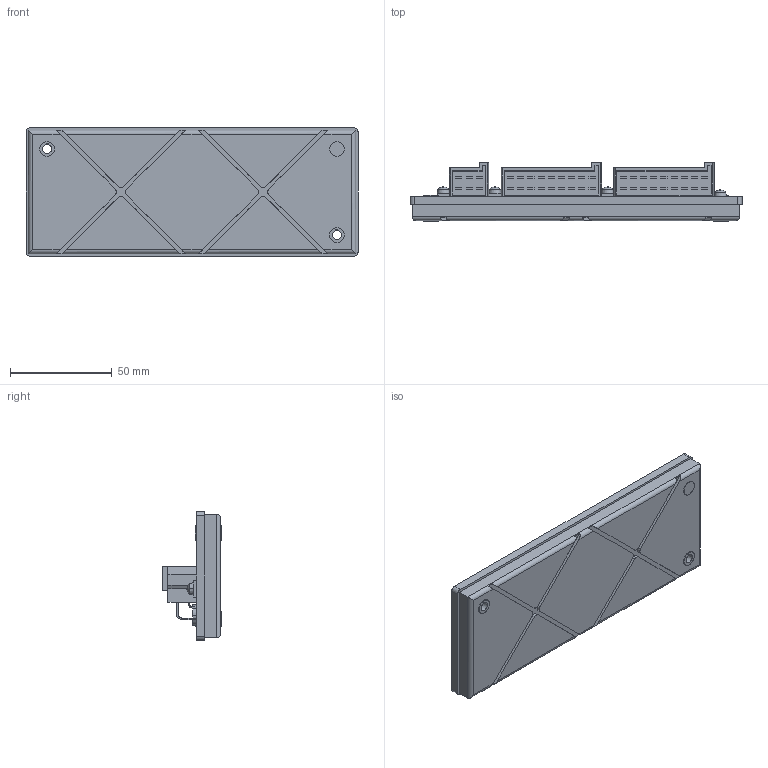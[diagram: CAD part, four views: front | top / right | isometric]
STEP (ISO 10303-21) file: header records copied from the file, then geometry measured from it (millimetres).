
FILE_DESCRIPTION( ( '' ), '1' );
FILE_NAME( '//expscmdclustefs.cadenas.external/client_exchange/iodir/jobs/output/wkb59772779_no0/STEP/CR2012_2_03.stp', '2013-06-25T11:54:05', ( '' ), ( '' ), ' ', ' ', ' ' );
FILE_SCHEMA( ( 'CONFIG_CONTROL_DESIGN' ) );
Length unit declared in the file: millimetre
Products named in the file (1): 1
Bounding box: 163 x 28.8 x 63 mm (x, y, z)
Volume: 125056.6 mm3; surface area: 42203.2 mm2
Topology: 1 solids, 3 shells, 925 faces, 2493 edges, 1654 vertices
Faces by surface type: plane 781, cylinder 132, cone 8, sphere 4
Entity records: 28915 total; most frequent: CARTESIAN_POINT 5073, ORIENTED_EDGE 4986, DIRECTION 4697, EDGE_CURVE 2493, LINE 2141, VECTOR 2141, VERTEX_POINT 1654, AXIS2_PLACEMENT_3D 1278
